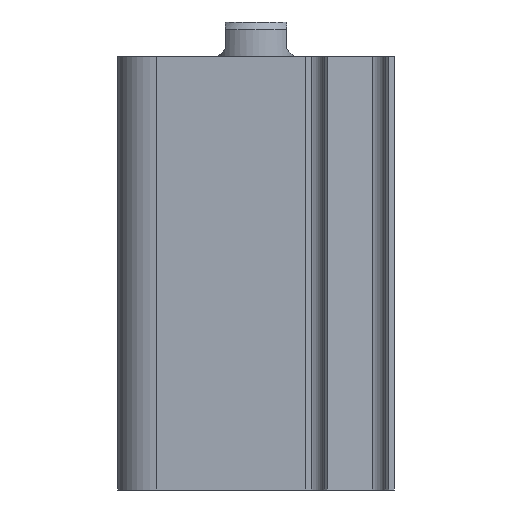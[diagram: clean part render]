
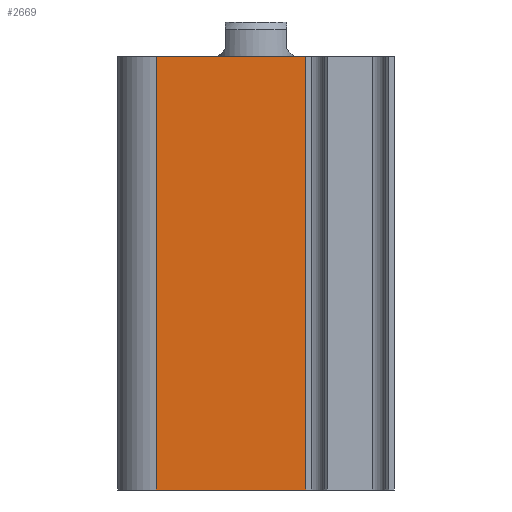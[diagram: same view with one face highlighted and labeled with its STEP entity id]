
A CAD part, front view. The second image highlights one B-rep face of the part: STEP entity #2669.
In plain terms, the highlighted planar face has unit normal (0, -1, 0).
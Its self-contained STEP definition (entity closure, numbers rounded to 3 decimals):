
#79 = CARTESIAN_POINT ( 'NONE',  ( 6.466, -18., -28.25 ) ) ;
#231 = VERTEX_POINT ( 'NONE', #2041 ) ;
#481 = DIRECTION ( 'NONE',  ( 1., 0., 0. ) ) ;
#924 = VECTOR ( 'NONE', #3852, 1000. ) ;
#1045 = DIRECTION ( 'NONE',  ( 0., 0., 1. ) ) ;
#1088 = CARTESIAN_POINT ( 'NONE',  ( 6.466, -18., 28.25 ) ) ;
#1213 = ORIENTED_EDGE ( 'NONE', *, *, #4454, .F. ) ;
#1218 = ORIENTED_EDGE ( 'NONE', *, *, #2119, .T. ) ;
#1254 = EDGE_CURVE ( 'NONE', #2320, #231, #3054, .T. ) ;
#1257 = CARTESIAN_POINT ( 'NONE',  ( -13., -18., 28.25 ) ) ;
#1644 = ORIENTED_EDGE ( 'NONE', *, *, #1254, .T. ) ;
#1836 = FACE_OUTER_BOUND ( 'NONE', #4960, .T. ) ;
#2041 = CARTESIAN_POINT ( 'NONE',  ( -13., -18., -28.25 ) ) ;
#2073 = AXIS2_PLACEMENT_3D ( 'NONE', #4930, #4954, #3717 ) ;
#2119 = EDGE_CURVE ( 'NONE', #4028, #3495, #3820, .T. ) ;
#2320 = VERTEX_POINT ( 'NONE', #2753 ) ;
#2669 = ADVANCED_FACE ( 'NONE', ( #1836 ), #4187, .F. ) ;
#2753 = CARTESIAN_POINT ( 'NONE',  ( -13., -18., 28.25 ) ) ;
#2768 = DIRECTION ( 'NONE',  ( -1., 0., 0. ) ) ;
#3054 = LINE ( 'NONE', #3366, #924 ) ;
#3211 = LINE ( 'NONE', #4019, #4727 ) ;
#3366 = CARTESIAN_POINT ( 'NONE',  ( -13., -18., 79.162 ) ) ;
#3495 = VERTEX_POINT ( 'NONE', #1088 ) ;
#3717 = DIRECTION ( 'NONE',  ( 0., 0., 1. ) ) ;
#3789 = VECTOR ( 'NONE', #1045, 1000. ) ;
#3820 = LINE ( 'NONE', #5024, #3789 ) ;
#3852 = DIRECTION ( 'NONE',  ( 0., 0., -1. ) ) ;
#4007 = EDGE_CURVE ( 'NONE', #2320, #3495, #4800, .T. ) ;
#4019 = CARTESIAN_POINT ( 'NONE',  ( -13., -18., -28.25 ) ) ;
#4021 = VECTOR ( 'NONE', #481, 1000. ) ;
#4028 = VERTEX_POINT ( 'NONE', #79 ) ;
#4094 = ORIENTED_EDGE ( 'NONE', *, *, #4007, .F. ) ;
#4187 = PLANE ( 'NONE',  #2073 ) ;
#4454 = EDGE_CURVE ( 'NONE', #4028, #231, #3211, .T. ) ;
#4727 = VECTOR ( 'NONE', #2768, 1000. ) ;
#4800 = LINE ( 'NONE', #1257, #4021 ) ;
#4930 = CARTESIAN_POINT ( 'NONE',  ( -13., -18., 79.162 ) ) ;
#4954 = DIRECTION ( 'NONE',  ( 0., 1., 0. ) ) ;
#4960 = EDGE_LOOP ( 'NONE', ( #1213, #1218, #4094, #1644 ) ) ;
#5024 = CARTESIAN_POINT ( 'NONE',  ( 6.466, -18., 79.162 ) ) ;
